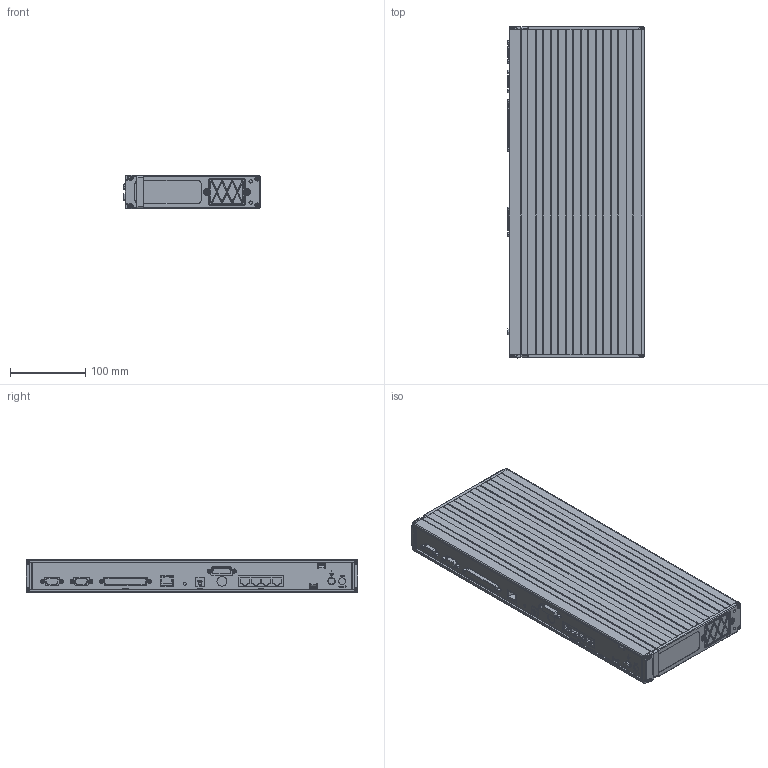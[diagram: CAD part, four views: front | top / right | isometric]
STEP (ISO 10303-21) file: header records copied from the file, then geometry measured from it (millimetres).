
FILE_DESCRIPTION(/* description */ (''),/* implementation_level */ '2;1');
FILE_NAME(/* name */ 'LA-5623-0200_A.stp',/* time_stamp */ '2018-06-08T11:14:52+01:00',/* author */ (''),/* organization */ (''),/* preprocessor_version */ 'ST-DEVELOPER v16',/* originating_system */ 'SIEMENS PLM Software NX 10.0',/* authorisation */ '');
FILE_SCHEMA (('AUTOMOTIVE_DESIGN { 1 0 10303 214 3 1 1 1 }'));
Products named in the file (1): aj060C2C93DFzs5g
Bounding box: 181.35 x 440 x 44.09 mm (x, y, z)
Volume: 521924.7 mm3; surface area: 482685.8 mm2
Topology: 1 solids, 2 shells, 3355 faces, 8820 edges, 5575 vertices
Faces by surface type: plane 1403, cylinder 1030, cone 281, torus 280, bspline 166, extrusion 119, sphere 76
Full cylindrical faces by diameter (mm): 2 x4, 2.05 x2, 2.2 x1, 2.35 x8, 2.5 x14, 2.845 x8, 2.9 x8, 3.1 x3, 3.2 x8, 3.5 x10, 3.8 x6, 4 x1, 4.351 x4, 4.5 x1, 5 x2, 5.39 x1, 5.5 x8, 6.7 x4, 7.5 x1, 8.7 x1, 9 x1, 9.5 x1, 9.82 x1, 13 x1, 13.5 x1
Entity records: 131564 total; most frequent: CARTESIAN_POINT 28757, ORIENTED_EDGE 16950, DIRECTION 16406, EDGE_CURVE 8475, AXIS2_PLACEMENT_3D 6103, VERTEX_POINT 5486, VECTOR 4200, LINE 4081
